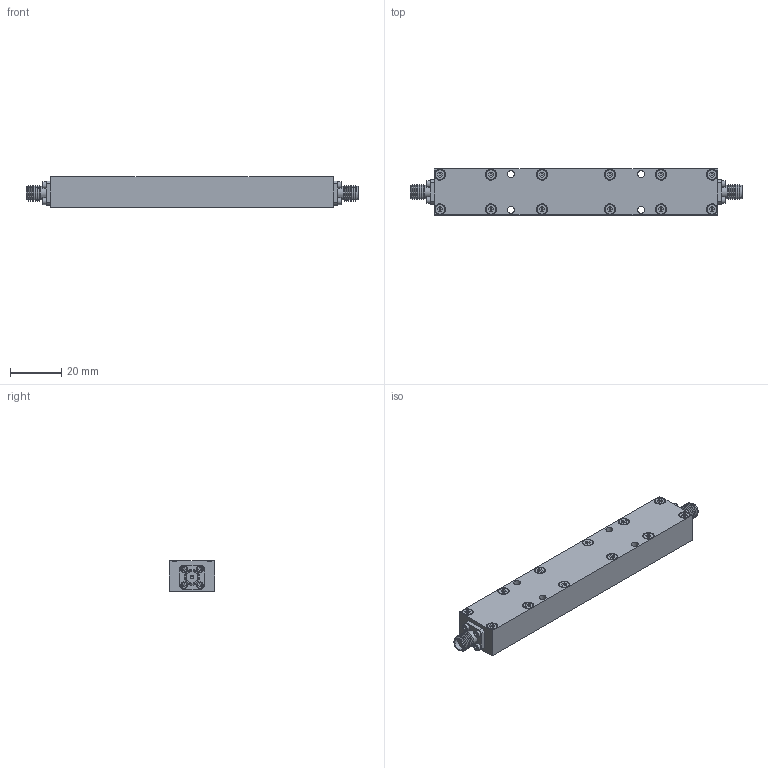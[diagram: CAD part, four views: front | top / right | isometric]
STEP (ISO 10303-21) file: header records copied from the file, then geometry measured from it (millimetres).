
FILE_DESCRIPTION(/* description */ ('Unknown'),/* implementation_level */ '2;1');
FILE_NAME(/* name */ 'LPF-SS-1000-1500-10000-40-SF-SF2',/* time_stamp */ '2021-06-01T10:10:37+02:00',/* author */ ('ALG'),/* organization */ ('DETI'),/* preprocessor_version */ 'ST-DEVELOPER v16.7',/* originating_system */ 'Solid Edge',/* authorisation */ 'Unknown');
FILE_SCHEMA (('AUTOMOTIVE_DESIGN {1 0 10303 214 3 1 1}'));
Length unit declared in the file: millimetre
Products named in the file (1): LPF-SS-1000-1500-10000-40-SF-SF2
Bounding box: 130 x 18 x 12 mm (x, y, z)
Volume: 18575.9 mm3; surface area: 12291 mm2
Topology: 1 solids, 20 shells, 706 faces, 1873 edges, 1225 vertices
Faces by surface type: plane 520, cylinder 108, cone 52, torus 20, bspline 6
Full cylindrical faces by diameter (mm): 1.075 x8, 1.1 x2, 1.27 x4, 1.4 x8, 1.8 x8, 2 x12, 2.2 x12, 2.6 x8, 2.7 x4, 3.8 x12, 4.1 x2, 4.6 x2, 5.3 x4
Entity records: 25315 total; most frequent: CARTESIAN_POINT 3873, DIRECTION 3248, ORIENTED_EDGE 3240, EDGE_CURVE 1620, LINE 1270, VECTOR 1270, VERTEX_POINT 1144, AXIS2_PLACEMENT_3D 989
